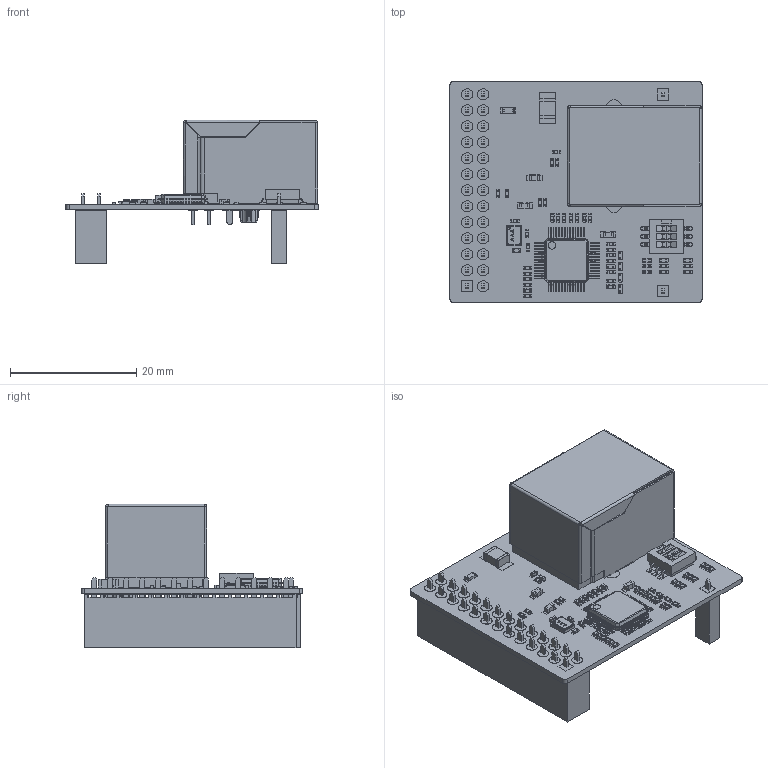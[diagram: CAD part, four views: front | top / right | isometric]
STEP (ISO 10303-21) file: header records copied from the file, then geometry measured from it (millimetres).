
FILE_DESCRIPTION (( 'STEP AP214' ), '1' );
FILE_NAME ('ESP-Thread BR&Zigbee GW_Sub_Ethernet_V1update.STEP', '2024-05-16T11:40:49', ( 'Windows User' ), ( 'P R C' ), 'SwSTEP 2.0', 'SolidWorks 2022', '' );
FILE_SCHEMA (( 'AUTOMOTIVE_DESIGN' ));
Length unit declared in the file: millimetre
Products named in the file (40): Submodel-D__3D_design_ESP32-H2_module_module_ESP-Thread-BR-GW-SUB-3D_PCB_ESP-Thread BR&Zigbee GW_Sub_Ethernet_V1.0_20230410_PCB_3D_ImportedPartModels_C0402_20210301.STEP; Submodel-D__3D_design_ESP32-H2_module_module_ESP-Thread-BR-GW-SUB-3D_PCB_ESP-Thread BR&Zigbee GW_Sub_Ethernet_V1.0_20230410_PCB_3D_ImportedPartModels_R0402_20210301.STEP; Submodel-D__3D_design_ESP32-H2_module_module_ESP-Thread-BR-GW-SUB-3D_PCB_ESP-Thread BR&Zigbee GW_Sub_Ethernet_V1.0_20230410_PCB_3D_ImportedPartModels_W5500--3DModel-STEP-56544.STEP; R0603_20210301.xtd; Submodel-CON13X2_2P54_part_CON13X2_2P54; C0402_20210301.xtd; Imported; uid__1430; Submodel-R0402_part_R0402; L0603-20240423.xtd; Submodel-D__3D_design_ESP32-H2_module_module_ESP-Thread-BR-GW-SUB-3D_PCB_ESP-Thread BR&Zigbee GW_Sub_Ethernet_V1.0_20230410_PCB_3D_ImportedPartModels_L0603-20240423.STEP; ESP-Thread BR&Zigbee GW_Sub_Ethernet_V1update; Submodel-D__3D_design_ESP32-H2_module_module_ESP-Thread-BR-GW-SUB-3D_PCB_ESP-Thread BR&Zigbee GW_Sub_Ethernet_V1.0_20230410_PCB_3D_ImportedPartModels_HR913129A--3DModel-STEP-1.STEP; Submodel-D__3D_design_ESP32-H2_module_module_ESP-Thread-BR-GW-SUB-3D_PCB_ESP-Thread BR&Zigbee GW_Sub_Ethernet_V1.0_20230410_PCB_3D_ImportedPartModels_SSW-113-21-S-D.stp; CUI_DEVICES_DS05-127-2-03BK-SMT-TR.xtd; Submodel-D__3D_design_ESP32-H2_module_module_ESP-Thread-BR-GW-SUB-3D_PCB_ESP-Thread BR&Zigbee GW_Sub_Ethernet_V1.0_20230410_PCB_3D_ImportedPartModels_SSW-101-21-S-S.stp; HR913129A--3DModel-STEP-1.xtd; Submodel-L0603_part_L0603; Submodel-C1210_part_C1210; Submodel-SIP1_part_SIP1; Submodel-R0603_part_R0603; Submodel-D__3D_design_ESP32-H2_module_module_ESP-Thread-BR-GW-SUB-3D_PCB_ESP-Thread BR&Zigbee GW_Sub_Ethernet_V1.0_20230410_PCB_3D_ImportedPartModels_CUI_DEVICES_DS05-127-2-03BK-SMT-TR.step; DesignRootModel; R0402_20210301.xtd; Submodel-XTAL3225_part_XTAL3225; Submodel-RJ45-HR912129A_part_RJ45-HR912129A; C0603_20210301.xtd; SSW-113-21-S-D.xtd; Submodel-D__3D_design_ESP32-H2_module_module_ESP-Thread-BR-GW-SUB-3D_PCB_ESP-Thread BR&Zigbee GW_Sub_Ethernet_V1.0_20230410_PCB_3D_ImportedPartModels_C1210-20240423.STEP; Submodel-D__3D_design_ESP32-H2_module_module_ESP-Thread-BR-GW-SUB-3D_PCB_ESP-Thread BR&Zigbee GW_Sub_Ethernet_V1.0_20230410_PCB_3D_ImportedPartModels_C0603_20210301.STEP; Submodel-C0603_part_C0603; Submodel-EU-03KS_part_EU-03KS; W5500--3DModel-STEP-56544.xtd; XTAL3225_20210301.xtd; Submodel-C0402_part_C0402; Submodel-D__3D_design_ESP32-H2_module_module_ESP-Thread-BR-GW-SUB-3D_PCB_ESP-Thread BR&Zigbee GW_Sub_Ethernet_V1.0_20230410_PCB_3D_ImportedPartModels_R0603_20210301.STEP; Submodel-D__3D_design_ESP32-H2_module_module_ESP-Thread-BR-GW-SUB-3D_PCB_ESP-Thread BR&Zigbee GW_Sub_Ethernet_V1.0_20230410_PCB_3D_ImportedPartModels_XTAL3225_20210301.STEP; SSW-101-21-S-S.xtd; C1210-20240423.xtd; Submodel-LQFP48_0P5_7_part_LQFP48_0P5_7
Assembly tree (84 placements, depth 5):
  ESP-Thread BR&Zigbee GW_Sub_Ethernet_V1update
    DesignRootModel
      uid__1430
      Submodel-C0603_part_C0603  x2
        Submodel-D__3D_design_ESP32-H2_module_module_ESP-Thread-BR-GW-SUB-3D_PCB_ESP-Thread BR&Zigbee GW_Sub_Ethernet_V1.0_20230410_PCB_3D_ImportedPartModels_C0603_20210301.STEP
          C0603_20210301.xtd
      Submodel-R0402_part_R0402  x30
        Submodel-D__3D_design_ESP32-H2_module_module_ESP-Thread-BR-GW-SUB-3D_PCB_ESP-Thread BR&Zigbee GW_Sub_Ethernet_V1.0_20230410_PCB_3D_ImportedPartModels_R0402_20210301.STEP
          R0402_20210301.xtd
      Submodel-R0603_part_R0603
        Submodel-D__3D_design_ESP32-H2_module_module_ESP-Thread-BR-GW-SUB-3D_PCB_ESP-Thread BR&Zigbee GW_Sub_Ethernet_V1.0_20230410_PCB_3D_ImportedPartModels_R0603_20210301.STEP
          R0603_20210301.xtd
      Submodel-SIP1_part_SIP1  x2
        Submodel-D__3D_design_ESP32-H2_module_module_ESP-Thread-BR-GW-SUB-3D_PCB_ESP-Thread BR&Zigbee GW_Sub_Ethernet_V1.0_20230410_PCB_3D_ImportedPartModels_SSW-101-21-S-S.stp
          SSW-101-21-S-S.xtd
      Submodel-CON13X2_2P54_part_CON13X2_2P54
        Submodel-D__3D_design_ESP32-H2_module_module_ESP-Thread-BR-GW-SUB-3D_PCB_ESP-Thread BR&Zigbee GW_Sub_Ethernet_V1.0_20230410_PCB_3D_ImportedPartModels_SSW-113-21-S-D.stp
          SSW-113-21-S-D.xtd
      Submodel-EU-03KS_part_EU-03KS
        Submodel-D__3D_design_ESP32-H2_module_module_ESP-Thread-BR-GW-SUB-3D_PCB_ESP-Thread BR&Zigbee GW_Sub_Ethernet_V1.0_20230410_PCB_3D_ImportedPartModels_CUI_DEVICES_DS05-127-2-03BK-SMT-TR.step
          CUI_DEVICES_DS05-127-2-03BK-SMT-TR.xtd
      Submodel-XTAL3225_part_XTAL3225
        Submodel-D__3D_design_ESP32-H2_module_module_ESP-Thread-BR-GW-SUB-3D_PCB_ESP-Thread BR&Zigbee GW_Sub_Ethernet_V1.0_20230410_PCB_3D_ImportedPartModels_XTAL3225_20210301.STEP
          XTAL3225_20210301.xtd
      Submodel-LQFP48_0P5_7_part_LQFP48_0P5_7
        Submodel-D__3D_design_ESP32-H2_module_module_ESP-Thread-BR-GW-SUB-3D_PCB_ESP-Thread BR&Zigbee GW_Sub_Ethernet_V1.0_20230410_PCB_3D_ImportedPartModels_W5500--3DModel-STEP-56544.STEP
          W5500--3DModel-STEP-56544.xtd
      Submodel-L0603_part_L0603
        Submodel-D__3D_design_ESP32-H2_module_module_ESP-Thread-BR-GW-SUB-3D_PCB_ESP-Thread BR&Zigbee GW_Sub_Ethernet_V1.0_20230410_PCB_3D_ImportedPartModels_L0603-20240423.STEP
          L0603-20240423.xtd
      Submodel-RJ45-HR912129A_part_RJ45-HR912129A
        Submodel-D__3D_design_ESP32-H2_module_module_ESP-Thread-BR-GW-SUB-3D_PCB_ESP-Thread BR&Zigbee GW_Sub_Ethernet_V1.0_20230410_PCB_3D_ImportedPartModels_HR913129A--3DModel-STEP-1.STEP
          HR913129A--3DModel-STEP-1.xtd
      Submodel-C0402_part_C0402  x15
        Submodel-D__3D_design_ESP32-H2_module_module_ESP-Thread-BR-GW-SUB-3D_PCB_ESP-Thread BR&Zigbee GW_Sub_Ethernet_V1.0_20230410_PCB_3D_ImportedPartModels_C0402_20210301.STEP
          C0402_20210301.xtd
      Submodel-C1210_part_C1210
        Submodel-D__3D_design_ESP32-H2_module_module_ESP-Thread-BR-GW-SUB-3D_PCB_ESP-Thread BR&Zigbee GW_Sub_Ethernet_V1.0_20230410_PCB_3D_ImportedPartModels_C1210-20240423.STEP
          C1210-20240423.xtd
    Imported
Bounding box: 40 x 35.1 x 22.78 mm (x, y, z)
Volume: 6030.2 mm3; surface area: 11213.3 mm2
Topology: 441 solids, 442 shells, 5194 faces, 12202 edges, 7862 vertices
Faces by surface type: plane 3892, cylinder 1254, bspline 18, sphere 16, cone 10, torus 4
Entity records: 148643 total; most frequent: CARTESIAN_POINT 19072, DIRECTION 17642, ORIENTED_EDGE 17000, EDGE_CURVE 8500, VECTOR 6616, LINE 6616, VERTEX_POINT 5590, AXIS2_PLACEMENT_3D 5513
